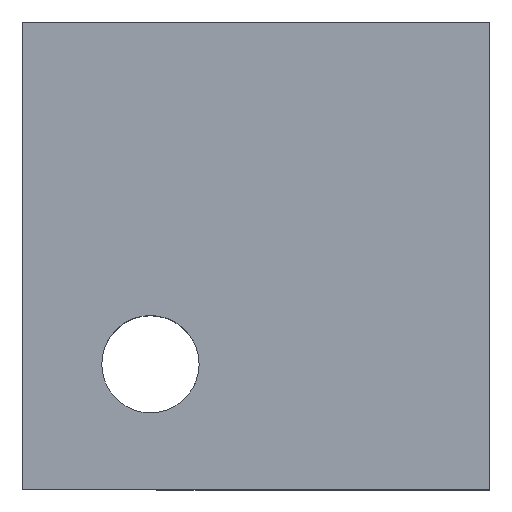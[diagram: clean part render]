
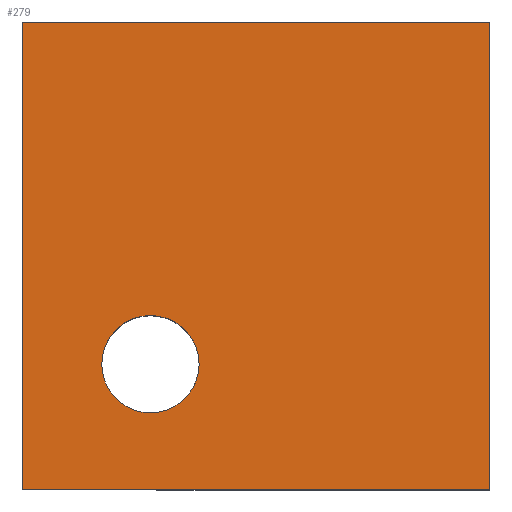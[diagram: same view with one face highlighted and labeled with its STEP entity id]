
A CAD part, top view. The second image highlights one B-rep face of the part: STEP entity #279.
In plain terms, the highlighted planar face has unit normal (0, 0, 1).
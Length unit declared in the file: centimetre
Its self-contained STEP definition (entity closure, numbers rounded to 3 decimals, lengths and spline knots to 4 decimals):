
#2 = VERTEX_POINT ( 'NONE', #415 ) ;
#10 = CARTESIAN_POINT ( 'NONE',  ( 0., 1000., 1000. ) ) ;
#11 = DIRECTION ( 'NONE',  ( 0., 0., 1. ) ) ;
#24 = CARTESIAN_POINT ( 'NONE',  ( 0., 0., 1000. ) ) ;
#30 = AXIS2_PLACEMENT_3D ( 'NONE', #416, #11, #57 ) ;
#46 = AXIS2_PLACEMENT_3D ( 'NONE', #508, #502, #373 ) ;
#57 = DIRECTION ( 'NONE',  ( 1., 0., 0. ) ) ;
#58 = CARTESIAN_POINT ( 'NONE',  ( 1000., 1000., 1000. ) ) ;
#61 = VECTOR ( 'NONE', #69, 100. ) ;
#69 = DIRECTION ( 'NONE',  ( -1., 0., 0. ) ) ;
#73 = DIRECTION ( 'NONE',  ( 1., 0., 0. ) ) ;
#76 = EDGE_CURVE ( 'NONE', #116, #93, #156, .T. ) ;
#93 = VERTEX_POINT ( 'NONE', #419 ) ;
#102 = ORIENTED_EDGE ( 'NONE', *, *, #459, .T. ) ;
#112 = DIRECTION ( 'NONE',  ( 1., 0., 0. ) ) ;
#116 = VERTEX_POINT ( 'NONE', #58 ) ;
#120 = EDGE_CURVE ( 'NONE', #356, #2, #255, .T. ) ;
#155 = ORIENTED_EDGE ( 'NONE', *, *, #178, .T. ) ;
#156 = LINE ( 'NONE', #10, #61 ) ;
#175 = PLANE ( 'NONE',  #465 ) ;
#178 = EDGE_CURVE ( 'NONE', #2, #116, #329, .T. ) ;
#181 = CARTESIAN_POINT ( 'NONE',  ( 0., 1000., 1000. ) ) ;
#184 = EDGE_LOOP ( 'NONE', ( #102, #315, #155, #407 ) ) ;
#218 = VECTOR ( 'NONE', #398, 100. ) ;
#235 = VERTEX_POINT ( 'NONE', #394 ) ;
#247 = CIRCLE ( 'NONE', #46, 104.171 ) ;
#255 = LINE ( 'NONE', #24, #462 ) ;
#262 = FACE_OUTER_BOUND ( 'NONE', #184, .T. ) ;
#264 = CARTESIAN_POINT ( 'NONE',  ( 1000., 1000., 1000. ) ) ;
#279 = ADVANCED_FACE ( 'NONE', ( #309, #262 ), #175, .T. ) ;
#289 = CARTESIAN_POINT ( 'NONE',  ( 0., 0., 1000. ) ) ;
#302 = DIRECTION ( 'NONE',  ( 0., 0., 1. ) ) ;
#308 = EDGE_CURVE ( 'NONE', #388, #235, #418, .T. ) ;
#309 = FACE_BOUND ( 'NONE', #487, .T. ) ;
#315 = ORIENTED_EDGE ( 'NONE', *, *, #120, .T. ) ;
#316 = EDGE_CURVE ( 'NONE', #235, #388, #247, .T. ) ;
#329 = LINE ( 'NONE', #264, #354 ) ;
#354 = VECTOR ( 'NONE', #478, 100. ) ;
#356 = VERTEX_POINT ( 'NONE', #289 ) ;
#359 = ORIENTED_EDGE ( 'NONE', *, *, #308, .F. ) ;
#373 = DIRECTION ( 'NONE',  ( 1., 0., 0. ) ) ;
#388 = VERTEX_POINT ( 'NONE', #414 ) ;
#394 = CARTESIAN_POINT ( 'NONE',  ( 378.2592, 267.8946, 1000. ) ) ;
#398 = DIRECTION ( 'NONE',  ( 0., -1., 0. ) ) ;
#405 = LINE ( 'NONE', #181, #218 ) ;
#407 = ORIENTED_EDGE ( 'NONE', *, *, #76, .T. ) ;
#414 = CARTESIAN_POINT ( 'NONE',  ( 169.9173, 267.8946, 1000. ) ) ;
#415 = CARTESIAN_POINT ( 'NONE',  ( 1000., 0., 1000. ) ) ;
#416 = CARTESIAN_POINT ( 'NONE',  ( 274.0883, 267.8946, 1000. ) ) ;
#418 = CIRCLE ( 'NONE', #30, 104.171 ) ;
#419 = CARTESIAN_POINT ( 'NONE',  ( 0., 1000., 1000. ) ) ;
#439 = CARTESIAN_POINT ( 'NONE',  ( 0., 0., 1000. ) ) ;
#451 = ORIENTED_EDGE ( 'NONE', *, *, #316, .F. ) ;
#459 = EDGE_CURVE ( 'NONE', #93, #356, #405, .T. ) ;
#462 = VECTOR ( 'NONE', #112, 100. ) ;
#465 = AXIS2_PLACEMENT_3D ( 'NONE', #439, #302, #73 ) ;
#478 = DIRECTION ( 'NONE',  ( 0., 1., 0. ) ) ;
#487 = EDGE_LOOP ( 'NONE', ( #451, #359 ) ) ;
#502 = DIRECTION ( 'NONE',  ( 0., 0., 1. ) ) ;
#508 = CARTESIAN_POINT ( 'NONE',  ( 274.0883, 267.8946, 1000. ) ) ;
